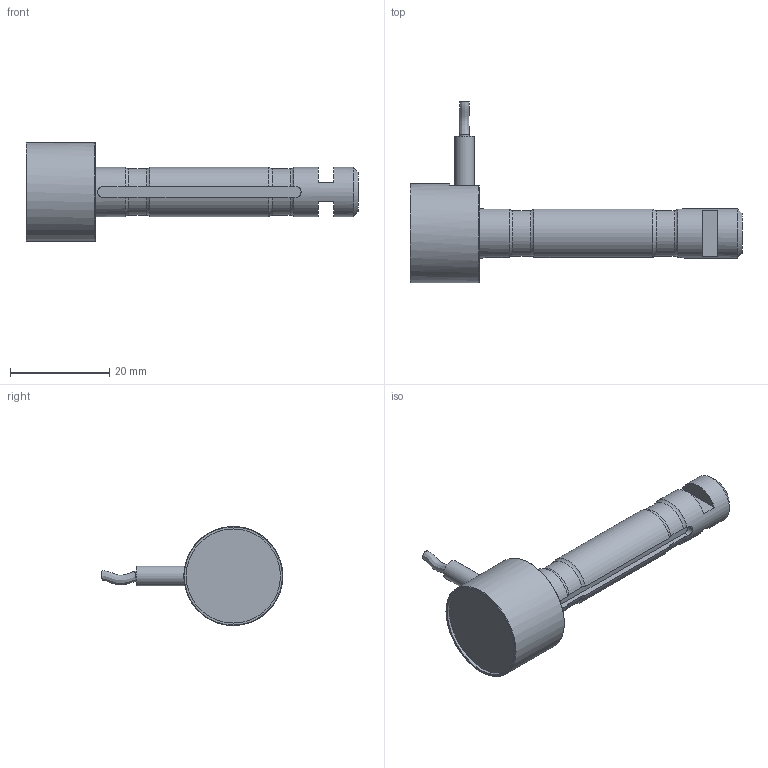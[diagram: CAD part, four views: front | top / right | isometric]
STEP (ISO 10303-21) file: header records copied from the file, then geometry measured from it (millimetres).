
FILE_DESCRIPTION(/* description */ ('Alibre Inc.'),/* implementation_level */ '2;1');
FILE_NAME(/* name */ 'export0',/* time_stamp */ '2016-11-09T12:18:05+01:00',/* author */ (''),/* organization */ (''),/* preprocessor_version */ 'ST-DEVELOPER v14',/* originating_system */ 'Alibre',/* authorisation */ '');
FILE_SCHEMA (('CONFIG_CONTROL_DESIGN'));
Length unit declared in the file: centimetre
Products named in the file (5): ID_1; ID_2; ID_3
Bounding box: 67 x 36.69 x 20 mm (x, y, z)
Volume: 8018.2 mm3; surface area: 3822.2 mm2
Topology: 3 solids, 3 shells, 64 faces, 156 edges, 103 vertices
Faces by surface type: plane 28, cylinder 23, torus 9, cone 3, bspline 1
Full cylindrical faces by diameter (mm): 2 x1, 2.3 x1, 3.5 x1, 3.6 x1, 4 x1, 10 x2, 19 x1, 20 x1
Entity records: 2844 total; most frequent: CARTESIAN_POINT 1011, ORIENTED_EDGE 276, DIRECTION 243, EDGE_CURVE 138, AXIS2_PLACEMENT_3D 110, VERTEX_POINT 98, EDGE_LOOP 84, FACE_BOUND 84
